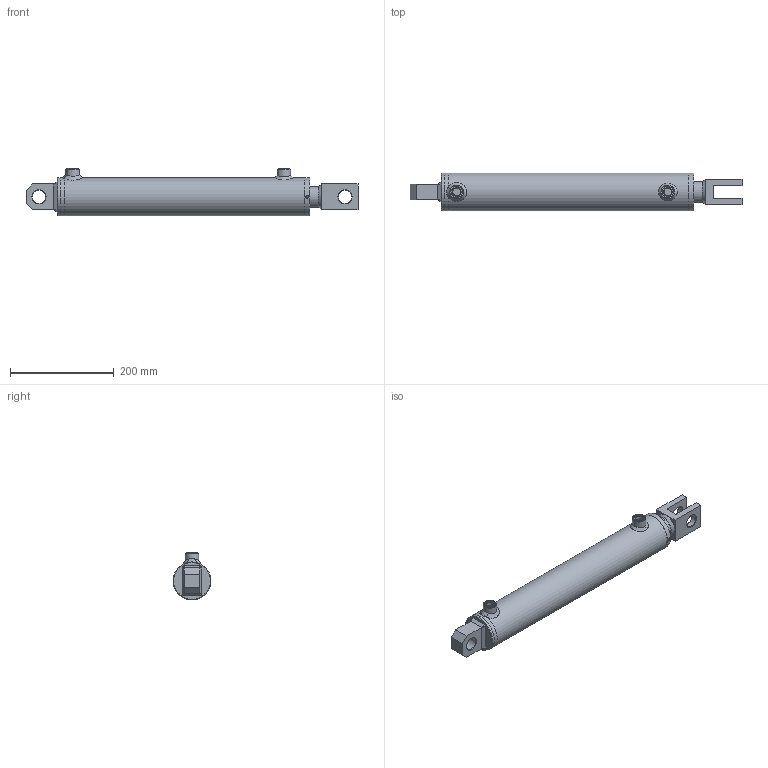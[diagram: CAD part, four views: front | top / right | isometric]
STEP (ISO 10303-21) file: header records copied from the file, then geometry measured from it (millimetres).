
FILE_DESCRIPTION( ( 'Unknown' ), '1' );
FILE_NAME( 'E:/LIBRERIA_3d/CILINDRI/HM5/HM5063400350.stp', 'Unknown', ( 'Unknown' ), ( 'Unknown' ), 'PSStep 17.0.49', 'Unknown', ' ' );
FILE_SCHEMA( ( 'AUTOMOTIVE_DESIGN { 1 0 10303 214 1 1 1 1 }' ) );
Length unit declared in the file: millimetre
Products named in the file (29): CT00063024; CG07306340; STL0630730350-oa7; Saldatura d'angolo 1-oa5; MAT_PRIMA_TUBO_FT07306300-oa6; CBSC220600; HM0063400350; Saldatura con preparazione 1-oa3; Saldatura d'angolo 1-oa4; CBS0600000; CF00063073; CDA0002420; APG0600000; SBL0400630350; Assem1; CSCS004010; COF2500000; CFS0000025; Saldatura d'angolo 1-oa0; Saldatura con preparazione 1-oa1; Saldatura d'angolo 2-oa2
Assembly tree (21 placements, depth 4):
  Saldatura d'angolo 1-oa5
  Saldatura d'angolo 1-oa5
  Saldatura d'angolo 1-oa4
  Saldatura d'angolo 1-oa4
  Assem1
    CSCS004010
    COF2500000
    CFS0000025
    Saldatura con preparazione 1-oa1
    Saldatura con preparazione 1-oa1
    HM0063400350
      Saldatura con preparazione 1-oa3
      Saldatura con preparazione 1-oa3
      CBS0600000
      CF00063073
      CDA0002420
      APG0600000  x2
      SBL0400630350
      CG07306340
        CG07306340
      CT00063024
        CT00063024
      STL0630730350-oa7
        MAT_PRIMA_TUBO_FT07306300-oa6
        CBSC220600
Bounding box: 640 x 73 x 92 mm (x, y, z)
Volume: 1501046 mm3; surface area: 398256.7 mm2
Topology: 25 solids, 25 shells, 283 faces, 608 edges, 374 vertices
Faces by surface type: plane 94, cylinder 68, cone 47, torus 38, bspline 36
Full cylindrical faces by diameter (mm): 4.25 x3, 5 x2, 6 x2, 7 x2, 14.95 x2, 16 x2, 16.6 x2, 22 x2, 23.4 x1, 24 x5, 25.25 x3, 26 x2, 28.5 x1, 36 x1, 40 x8, 42 x1, 43 x1, 47 x1, 48 x1, 48.6 x1, 58 x1, 58.39 x2, 61.63 x2, 62.9 x1, 63 x1, 63.8 x1, 64 x1, 64.1 x1, 65 x4, 66.376 x1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
Entity records: 11934 total; most frequent: CARTESIAN_POINT 4793, DIRECTION 1030, ORIENTED_EDGE 750, EDGE_LOOP 472, AXIS2_PLACEMENT_3D 467, FACE_OUTER_BOUND 377, EDGE_CURVE 375, VERTEX_POINT 310
